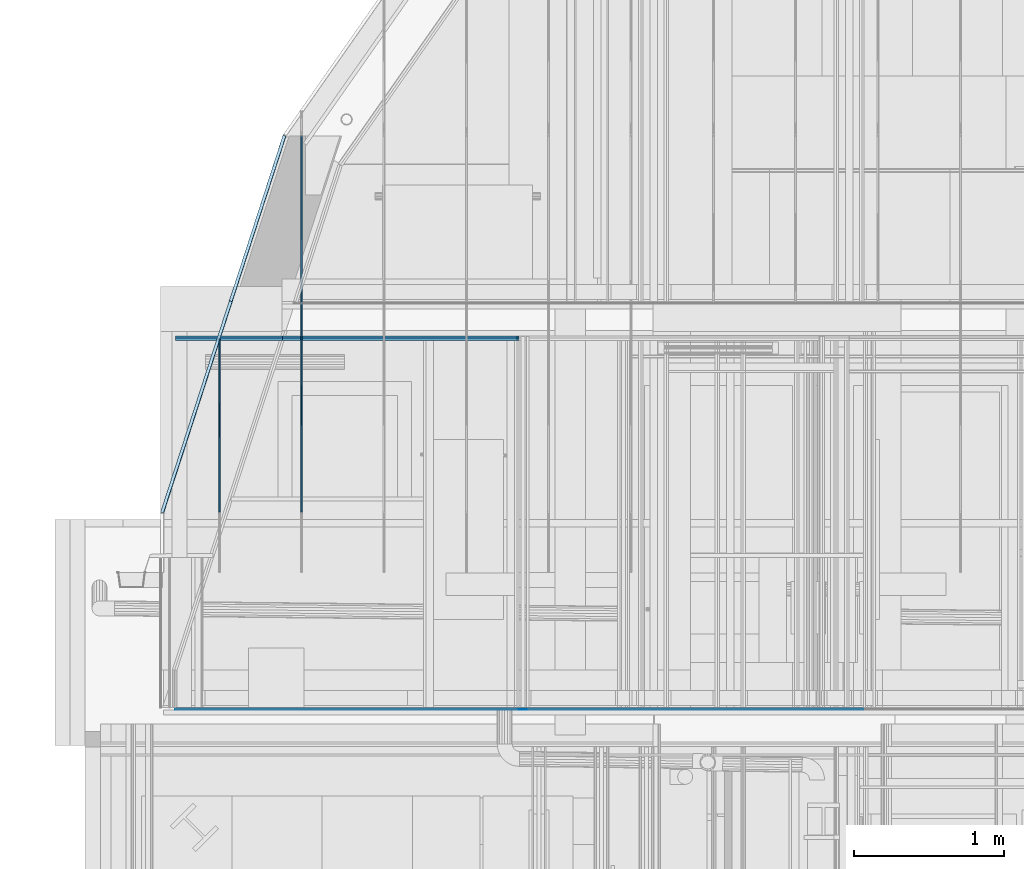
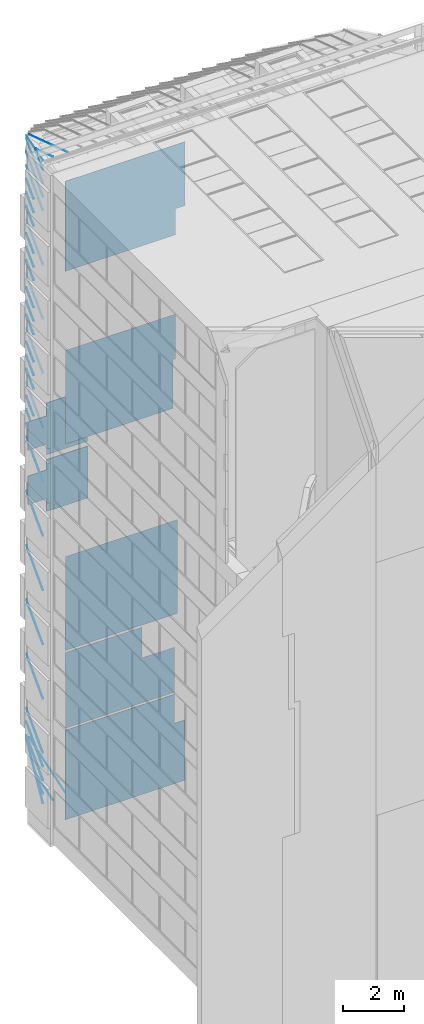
# One storey, part 262 of 583: 49 slabs.
"""IFC2X3 building model written with IfcOpenShell, lengths in metres."""

import ifcopenshell
import ifcopenshell.guid

model = None  # the IFC model being written
_history = None  # IfcOwnerHistory: only IFC2X3 demands one
_inside = {}  # id of a spatial element -> (the spatial element, [elements in it])
_under = {}  # id of a project, library or spatial element -> (it, [spatial elements below it])
_declared = {}  # id of a project -> (the project, [libraries it declares])
_typed = {}  # id of a type object -> (the type object, [elements of that type])
_made_of = {}  # id of a material, layer set ... -> (it, [elements and type objects made of it])


def new_model(schema):
    """Start an empty IFC model of exactly this schema.

    Asked for "IFC4X3", IfcOpenShell would pick the latest addendum, in which some entities
    have other attributes; the version numbers below select the first issue.
    IFC2X3 requires an IfcOwnerHistory on every rooted entity: one is made here for all.
    """
    global model, _history
    if schema == "IFC4X3":
        model = ifcopenshell.file(schema_version=(4, 3, 0, 0))
    else:
        model = ifcopenshell.file(schema=schema)
    _inside.clear()
    _under.clear()
    _declared.clear()
    _typed.clear()
    _made_of.clear()
    _history = None
    if model.schema == "IFC2X3":
        org = make("IfcOrganization", Name="unknown")
        user = make(
            "IfcPersonAndOrganization",
            ThePerson=make("IfcPerson", FamilyName="unknown"),
            TheOrganization=org,
        )
        app = make(
            "IfcApplication",
            ApplicationDeveloper=org,
            Version="unknown",
            ApplicationFullName="unknown",
            ApplicationIdentifier="unknown",
        )
        _history = make(
            "IfcOwnerHistory",
            OwningUser=user,
            OwningApplication=app,
            ChangeAction="ADDED",
            CreationDate=0,
        )
    return model


def make(cls, **values):
    """One entity of the class cls with the attributes given. An attribute that is None is left unset."""
    return model.create_entity(
        cls, **{name: value for name, value in values.items() if value is not None}
    )


def entity(cls, *values):
    """Any entity or typed value of the class cls, its attributes in the order of the schema. None: left unset."""
    e = model.create_entity(cls)
    for i, value in enumerate(values):
        if value is not None:
            e[i] = value
    return e


def rooted(cls, **values):
    """An entity with a GlobalId (a new one), such as an element, a storey or a relation."""
    return make(cls, GlobalId=ifcopenshell.guid.new(), OwnerHistory=_history, **values)


def si_unit(unit_type, name, prefix=None):
    """IfcSIUnit, for example si_unit("LENGTHUNIT", "METRE", prefix="MILLI")."""
    return make("IfcSIUnit", UnitType=unit_type, Prefix=prefix, Name=name)


def converted_unit(unit_type, name, factor, base, dimensions=None, offset=None):
    """IfcConversionBasedUnit, such as the inch: factor (a typed value) times the base unit."""
    return make(
        "IfcConversionBasedUnit"
        if offset is None
        else "IfcConversionBasedUnitWithOffset",
        ConversionOffset=offset,
        Dimensions=None
        if dimensions is None
        else entity("IfcDimensionalExponents", *dimensions),
        UnitType=unit_type,
        Name=name,
        ConversionFactor=make(
            "IfcMeasureWithUnit", ValueComponent=factor, UnitComponent=base
        ),
    )


def derived_unit(unit_type, elements):
    """IfcDerivedUnit: a product of units, each with its exponent."""
    return make(
        "IfcDerivedUnit",
        Elements=[
            make("IfcDerivedUnitElement", Unit=unit, Exponent=power)
            for unit, power in elements
        ],
        UnitType=unit_type,
    )


def money_unit(currency):
    """IfcMonetaryUnit."""
    return make("IfcMonetaryUnit", Currency=currency)


def assignment(units):
    """IfcUnitAssignment: the units of a project."""
    return None if units is None else make("IfcUnitAssignment", Units=units)


def point(xyz):
    """IfcCartesianPoint."""
    return None if xyz is None else make("IfcCartesianPoint", Coordinates=xyz)


def direction(xyz):
    """IfcDirection."""
    return None if xyz is None else make("IfcDirection", DirectionRatios=xyz)


def frame(location, z_axis=None, x_axis=None):
    """IfcAxis2Placement3D, a coordinate frame: its origin and axes. An axis left out is left unset."""
    return make(
        "IfcAxis2Placement3D",
        Location=point(location),
        Axis=direction(z_axis),
        RefDirection=direction(x_axis),
    )


def origin_with_axes():
    """The frame at (0, 0, 0) with the z axis (0, 0, 1) and the x axis (1, 0, 0) written out."""
    return frame((0.0, 0.0, 0.0), z_axis=(0.0, 0.0, 1.0), x_axis=(1.0, 0.0, 0.0))


def place(relative_to, where):
    """IfcLocalPlacement: puts the frame where relative to a parent placement (None: the world)."""
    return make(
        "IfcLocalPlacement", PlacementRelTo=relative_to, RelativePlacement=where
    )


def context(
    kind, dimensions, precision=None, world=None, true_north=None, identifier=None
):
    """IfcGeometricRepresentationContext, for example the 3D "Model" context."""
    return make(
        "IfcGeometricRepresentationContext",
        ContextIdentifier=identifier,
        ContextType=kind,
        CoordinateSpaceDimension=dimensions,
        Precision=precision,
        WorldCoordinateSystem=world,
        TrueNorth=true_north,
    )


def subcontext(parent, identifier, kind, view, scale=None):
    """IfcGeometricRepresentationSubContext, for example "Body" below "Model"."""
    return make(
        "IfcGeometricRepresentationSubContext",
        ContextIdentifier=identifier,
        ContextType=kind,
        ParentContext=parent,
        TargetScale=scale,
        TargetView=view,
    )


def project(units=None, contexts=None):
    """IfcProject with its units and contexts."""
    return rooted(
        "IfcProject",
        Name="project",
        RepresentationContexts=contexts,
        UnitsInContext=assignment(units),
    )


def spatial(cls, under=None, at=None, **own):
    """A site, building, storey or space (cls), placed at a placement, below another one or the project."""
    s = rooted(cls, ObjectPlacement=at, **own)
    if under is not None:
        _under.setdefault(under.id(), (under, []))[1].append(s)
    return s


def faces_of(points, faces, orient=None, outer=None):
    """IfcFace entities. A face is a list of loops; a loop is a list of indices into points, from 0.

    orient and outer hold one flag for each loop. By default every Orientation is true, the
    first loop of a face is its IfcFaceOuterBound and the others are IfcFaceBound.
    """
    made = []
    for i, loops in enumerate(faces):
        bounds = []
        for j, loop in enumerate(loops):
            is_outer = j == 0 if outer is None else outer[i][j]
            bounds.append(
                make(
                    "IfcFaceOuterBound" if is_outer else "IfcFaceBound",
                    Bound=make("IfcPolyLoop", Polygon=[points[k] for k in loop]),
                    Orientation=True if orient is None else orient[i][j],
                )
            )
        made.append(make("IfcFace", Bounds=bounds))
    return made


def faceted_brep(points, faces, orient=None, outer=None, voids=None):
    """IfcFacetedBrep: a solid bounded by flat faces; with voids (closed shells), ...WithVoids."""
    shared = [point(p) for p in points]
    hull = make("IfcClosedShell", CfsFaces=faces_of(shared, faces, orient, outer))
    if voids is None:
        return make("IfcFacetedBrep", Outer=hull)
    return make(
        "IfcFacetedBrepWithVoids",
        Outer=hull,
        Voids=[
            make(cls, CfsFaces=faces_of(shared, fs, o, b)) for cls, fs, o, b in voids
        ],
    )


def shape(context_of_items, identifier, shape_type, items):
    """IfcShapeRepresentation: the items that make up one representation, for example the "Body"."""
    return make(
        "IfcShapeRepresentation",
        ContextOfItems=context_of_items,
        RepresentationIdentifier=identifier,
        RepresentationType=shape_type,
        Items=items,
    )


def material(Name=None, Category=None):
    """IfcMaterial."""
    return make("IfcMaterial", Name=Name, Category=Category)


def made_of(thing, what):
    """Note that an element or type object is made of a material, layer set ...; save() writes the relation."""
    if what is not None:
        _made_of.setdefault(what.id(), (what, []))[1].append(thing)
    return thing


def type_object(cls, material=None, **own):
    """A type object (cls), such as IfcWallType, which elements share."""
    return made_of(rooted(cls, **own), material)


def element(
    cls,
    number,
    at=None,
    inside=None,
    cuts=None,
    type_object=None,
    material=None,
    context=None,
    identifier="Body",
    shape_type=None,
    held_by="IfcProductDefinitionShape",
    body=None,
    shapes=None,
    **own,
):
    """One element of the class cls, such as IfcWall. Its Tag is "e" and its number.

    at: its placement. inside: the storey or other place that contains it. cuts: it is an
    opening in that element (IfcRelVoidsElement). A single representation is given by context,
    identifier, shape_type and body (its items); several are given by shapes. held_by: the class
    of the entity that holds the representations. save() writes the other relations.
    """
    e = rooted(cls, Tag="e%d" % number, ObjectPlacement=at, **own)
    if body is not None:
        shapes = [shape(context, identifier, shape_type, body)]
    if shapes is not None:
        e.Representation = make(held_by, Representations=shapes)
    if inside is not None:
        _inside.setdefault(inside.id(), (inside, []))[1].append(e)
    if cuts is not None:
        rooted(
            "IfcRelVoidsElement", RelatingBuildingElement=cuts, RelatedOpeningElement=e
        )
    if type_object is not None:
        _typed.setdefault(type_object.id(), (type_object, []))[1].append(e)
    return made_of(e, material)


def aggregate(whole, parts):
    """IfcRelAggregates: a whole, such as a stair, and the parts it consists of."""
    return rooted("IfcRelAggregates", RelatingObject=whole, RelatedObjects=parts)


def save(model, path):
    """Write the relations noted so far, then the file.

    IfcRelAggregates (storeys below a building ...), IfcRelContainedInSpatialStructure (elements
    in a storey), IfcRelDefinesByType, IfcRelAssociatesMaterial and IfcRelDeclares: one each for
    every whole, place, type object, material and project.
    """
    for whole, parts in _under.values():
        aggregate(whole, parts)
    for where, things in _inside.values():
        rooted(
            "IfcRelContainedInSpatialStructure",
            RelatedElements=things,
            RelatingStructure=where,
        )
    for kind, things in _typed.values():
        rooted("IfcRelDefinesByType", RelatedObjects=things, RelatingType=kind)
    for what, things in _made_of.values():
        rooted("IfcRelAssociatesMaterial", RelatedObjects=things, RelatingMaterial=what)
    for by, libraries in _declared.values():
        rooted("IfcRelDeclares", RelatingContext=by, RelatedDefinitions=libraries)
    model.write(path)


model = new_model("IFC2X3")

# Units and contexts
model_context = context("Model", 3, precision=1e-05, world=origin_with_axes(), true_north=direction((0.0, 1.0)))
body_context = subcontext(model_context, "Body", "Model", "MODEL_VIEW", scale=1.0)
ifc_project = project(units=[si_unit("LENGTHUNIT", "METRE"), si_unit("AREAUNIT", "SQUARE_METRE"), si_unit("VOLUMEUNIT", "CUBIC_METRE"), si_unit("ABSORBEDDOSEUNIT", "GRAY"), si_unit("AMOUNTOFSUBSTANCEUNIT", "MOLE"), si_unit("DOSEEQUIVALENTUNIT", "SIEVERT"), si_unit("ELECTRICCAPACITANCEUNIT", "FARAD"), si_unit("ELECTRICCHARGEUNIT", "COULOMB"), si_unit("ELECTRICCONDUCTANCEUNIT", "SIEMENS"), si_unit("ELECTRICCURRENTUNIT", "AMPERE"), si_unit("ELECTRICRESISTANCEUNIT", "OHM"), si_unit("ELECTRICVOLTAGEUNIT", "VOLT"), si_unit("ENERGYUNIT", "JOULE"), si_unit("FORCEUNIT", "NEWTON"), si_unit("FREQUENCYUNIT", "HERTZ"), si_unit("ILLUMINANCEUNIT", "LUX"), si_unit("INDUCTANCEUNIT", "HENRY"), si_unit("LUMINOUSFLUXUNIT", "LUMEN"), si_unit("LUMINOUSINTENSITYUNIT", "CANDELA"), si_unit("MAGNETICFLUXDENSITYUNIT", "TESLA"), si_unit("MAGNETICFLUXUNIT", "WEBER"), si_unit("MASSUNIT", "GRAM"), converted_unit("PLANEANGLEUNIT", "degree", entity("IfcReal", 0.0174532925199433), si_unit("PLANEANGLEUNIT", "RADIAN"), dimensions=[0, 0, 0, 0, 0, 0, 0]), si_unit("POWERUNIT", "WATT"), si_unit("PRESSUREUNIT", "PASCAL"), si_unit("RADIOACTIVITYUNIT", "BECQUEREL"), si_unit("SOLIDANGLEUNIT", "STERADIAN"), si_unit("THERMODYNAMICTEMPERATUREUNIT", "KELVIN"), si_unit("TIMEUNIT", "SECOND"), derived_unit("ACCELERATIONUNIT", [(si_unit("LENGTHUNIT", "METRE"), 1), (si_unit("TIMEUNIT", "SECOND"), -2)]), derived_unit("ANGULARVELOCITYUNIT", [(converted_unit("PLANEANGLEUNIT", "degree", entity("IfcReal", 0.0174532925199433), si_unit("PLANEANGLEUNIT", "RADIAN"), dimensions=[0, 0, 0, 0, 0, 0, 0]), 1), (si_unit("TIMEUNIT", "SECOND"), -1)]), derived_unit("CURVATUREUNIT", [(converted_unit("PLANEANGLEUNIT", "degree", entity("IfcReal", 0.0174532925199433), si_unit("PLANEANGLEUNIT", "RADIAN"), dimensions=[0, 0, 0, 0, 0, 0, 0]), 1), (si_unit("LENGTHUNIT", "METRE"), -1)]), derived_unit("DYNAMICVISCOSITYUNIT", [(si_unit("PRESSUREUNIT", "PASCAL"), 1), (si_unit("TIMEUNIT", "SECOND"), 1)]), derived_unit("HEATFLUXDENSITYUNIT", [(si_unit("POWERUNIT", "WATT"), 1), (si_unit("LENGTHUNIT", "METRE"), -2)]), derived_unit("HEATINGVALUEUNIT", [(si_unit("ENERGYUNIT", "JOULE"), 1), (si_unit("MASSUNIT", "GRAM"), -1)]), derived_unit("INTEGERCOUNTRATEUNIT", [(si_unit("TIMEUNIT", "SECOND"), -1)]), derived_unit("IONCONCENTRATIONUNIT", [(si_unit("MASSUNIT", "GRAM"), 1), (si_unit("VOLUMEUNIT", "CUBIC_METRE"), -1)]), derived_unit("ISOTHERMALMOISTURECAPACITYUNIT", [(si_unit("VOLUMEUNIT", "CUBIC_METRE"), 1), (si_unit("MASSUNIT", "GRAM"), -1)]), derived_unit("KINEMATICVISCOSITYUNIT", [(si_unit("AREAUNIT", "SQUARE_METRE"), 1), (si_unit("TIMEUNIT", "SECOND"), -1)]), derived_unit("LINEARFORCEUNIT", [(si_unit("FORCEUNIT", "NEWTON"), 1), (si_unit("LENGTHUNIT", "METRE"), -1)]), derived_unit("LINEARMOMENTUNIT", [(si_unit("FORCEUNIT", "NEWTON"), 1), (si_unit("LENGTHUNIT", "METRE"), -1)]), derived_unit("LINEARSTIFFNESSUNIT", [(si_unit("FORCEUNIT", "NEWTON"), 1), (si_unit("LENGTHUNIT", "METRE"), -1)]), derived_unit("LINEARVELOCITYUNIT", [(si_unit("LENGTHUNIT", "METRE"), 1), (si_unit("TIMEUNIT", "SECOND"), -1)]), derived_unit("LUMINOUSINTENSITYDISTRIBUTIONUNIT", [(si_unit("LUMINOUSINTENSITYUNIT", "CANDELA"), 1), (si_unit("LUMINOUSFLUXUNIT", "LUMEN"), -1)]), derived_unit("MASSDENSITYUNIT", [(si_unit("MASSUNIT", "GRAM"), 1), (si_unit("VOLUMEUNIT", "CUBIC_METRE"), -1)]), derived_unit("MASSFLOWRATEUNIT", [(si_unit("MASSUNIT", "GRAM"), 1), (si_unit("TIMEUNIT", "SECOND"), -1)]), derived_unit("MASSPERLENGTHUNIT", [(si_unit("MASSUNIT", "GRAM"), 1), (si_unit("LENGTHUNIT", "METRE"), -1)]), derived_unit("MODULUSOFELASTICITYUNIT", [(si_unit("FORCEUNIT", "NEWTON"), 1), (si_unit("AREAUNIT", "SQUARE_METRE"), -1)]), derived_unit("MODULUSOFLINEARSUBGRADEREACTIONUNIT", [(si_unit("FORCEUNIT", "NEWTON"), 1), (si_unit("LENGTHUNIT", "METRE"), -2)]), derived_unit("MODULUSOFROTATIONALSUBGRADEREACTIONUNIT", [(si_unit("FORCEUNIT", "NEWTON"), 1), (si_unit("LENGTHUNIT", "METRE"), 1)]), derived_unit("MODULUSOFSUBGRADEREACTIONUNIT", [(si_unit("FORCEUNIT", "NEWTON"), 1), (si_unit("VOLUMEUNIT", "CUBIC_METRE"), -1)]), derived_unit("MOISTUREDIFFUSIVITYUNIT", [(si_unit("VOLUMEUNIT", "CUBIC_METRE"), 1), (si_unit("TIMEUNIT", "SECOND"), -1)]), derived_unit("MOLECULARWEIGHTUNIT", [(si_unit("MASSUNIT", "GRAM"), 1), (si_unit("AMOUNTOFSUBSTANCEUNIT", "MOLE"), -1)]), derived_unit("PLANARFORCEUNIT", [(si_unit("FORCEUNIT", "NEWTON"), 1), (si_unit("LENGTHUNIT", "METRE"), -2)]), derived_unit("ROTATIONALFREQUENCYUNIT", [(si_unit("TIMEUNIT", "SECOND"), -1)]), derived_unit("ROTATIONALMASSUNIT", [(si_unit("MASSUNIT", "GRAM"), 1), (si_unit("LENGTHUNIT", "METRE"), 2)]), derived_unit("ROTATIONALSTIFFNESSUNIT", [(si_unit("FORCEUNIT", "NEWTON"), 1), (si_unit("LENGTHUNIT", "METRE"), 1), (converted_unit("PLANEANGLEUNIT", "degree", entity("IfcReal", 0.0174532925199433), si_unit("PLANEANGLEUNIT", "RADIAN"), dimensions=[0, 0, 0, 0, 0, 0, 0]), -1)]), derived_unit("SECTIONAREAINTEGRALUNIT", [(si_unit("LENGTHUNIT", "METRE"), 5)]), derived_unit("SECTIONMODULUSUNIT", [(si_unit("LENGTHUNIT", "METRE"), 3)]), derived_unit("SHEARMODULUSUNIT", [(si_unit("FORCEUNIT", "NEWTON"), 1), (si_unit("AREAUNIT", "SQUARE_METRE"), -1)]), derived_unit("SOUNDPOWERUNIT", [(si_unit("ENERGYUNIT", "JOULE"), 1), (si_unit("TIMEUNIT", "SECOND"), -1)]), derived_unit("SPECIFICHEATCAPACITYUNIT", [(si_unit("FORCEUNIT", "NEWTON"), 1), (si_unit("MASSUNIT", "GRAM"), -1), (si_unit("THERMODYNAMICTEMPERATUREUNIT", "KELVIN"), -1)]), derived_unit("TEMPERATUREGRADIENTUNIT", [(si_unit("THERMODYNAMICTEMPERATUREUNIT", "KELVIN"), 1), (si_unit("LENGTHUNIT", "METRE"), -1)]), derived_unit("THERMALADMITTANCEUNIT", [(si_unit("POWERUNIT", "WATT"), 1), (si_unit("AREAUNIT", "SQUARE_METRE"), -1), (si_unit("THERMODYNAMICTEMPERATUREUNIT", "KELVIN"), -1)]), derived_unit("THERMALCONDUCTANCEUNIT", [(si_unit("POWERUNIT", "WATT"), 1), (si_unit("LENGTHUNIT", "METRE"), -1), (si_unit("THERMODYNAMICTEMPERATUREUNIT", "KELVIN"), -1)]), derived_unit("THERMALEXPANSIONCOEFFICIENTUNIT", [(si_unit("THERMODYNAMICTEMPERATUREUNIT", "KELVIN"), -1)]), derived_unit("THERMALRESISTANCEUNIT", [(si_unit("AREAUNIT", "SQUARE_METRE"), 1), (si_unit("POWERUNIT", "WATT"), -1)]), derived_unit("THERMALTRANSMITTANCEUNIT", [(si_unit("POWERUNIT", "WATT"), 1), (si_unit("AREAUNIT", "SQUARE_METRE"), -1), (si_unit("THERMODYNAMICTEMPERATUREUNIT", "KELVIN"), -1)]), derived_unit("TORQUEUNIT", [(si_unit("FORCEUNIT", "NEWTON"), 1), (si_unit("LENGTHUNIT", "METRE"), 1)]), derived_unit("VAPORPERMEABILITYUNIT", [(si_unit("MASSUNIT", "GRAM"), 1), (si_unit("TIMEUNIT", "SECOND"), -1)]), derived_unit("VOLUMETRICFLOWRATEUNIT", [(si_unit("VOLUMEUNIT", "CUBIC_METRE"), 1), (si_unit("TIMEUNIT", "SECOND"), -1)]), derived_unit("WARPINGCONSTANTUNIT", [(si_unit("LENGTHUNIT", "METRE"), 6)]), derived_unit("WARPINGMOMENTUNIT", [(si_unit("FORCEUNIT", "NEWTON"), 1), (si_unit("LENGTHUNIT", "METRE"), 2)]), money_unit("GBP")], contexts=[model_context])

# Site, building, storey
site_placement = place(None, origin_with_axes())
site = spatial("IfcSite", under=ifc_project, at=site_placement, Name="Site", CompositionType="ELEMENT")
building_placement = place(site_placement, origin_with_axes())
building = spatial("IfcBuilding", under=site, at=building_placement, Name="Building01", CompositionType="ELEMENT")
storey_placement = place(building_placement, frame((0.0, 0.0, 20.78), z_axis=(0.0, 0.0, 1.0), x_axis=(1.0, 0.0, 0.0)))
storey = spatial("IfcBuildingStorey", under=building, at=storey_placement, Name="RL", CompositionType="ELEMENT", Elevation=20.78)

# Slabs
ifc_material_1 = material(Name="A_BSUK_CeilingSoffitFinishes_Suspended")
slab_type_1 = type_object("IfcSlabType", Name="A-FloorsSlabs A_BSUK_Slabs", PredefinedType="FLOOR")
placement = place(storey_placement, frame((0.0, 0.0, -20.78), z_axis=(0.0, 0.0, 1.0), x_axis=(1.0, 0.0, 0.0)))
element("IfcSlab", 1, at=placement, inside=storey, type_object=slab_type_1, material=ifc_material_1, Name="A-FloorsSlabs A_BSUK_Slabs", ObjectType="CompoundSlabLeaf", context=body_context, shape_type="Brep", body=[
    faceted_brep([(1.312402, 17.423, 11.31), (1.312402, 17.438, 11.31), (2.884761, 17.438, 11.31), (2.884761, 17.423, 11.31), (1.312402, 17.423, 11.830024), (1.312402, 17.438, 11.830024), (0.599939, 17.423, 11.830024), (0.599939, 17.438, 11.830024), (0.599939, 17.423, 12.979976), (0.599939, 17.438, 12.979976), (1.312402, 17.423, 12.992194), (1.312402, 17.438, 12.992194), (1.312402, 17.423, 13.4), (1.312402, 17.438, 13.4), (2.884761, 17.423, 13.4), (2.884761, 17.438, 13.4)], [[[0, 1, 2, 3]], [[4, 5, 1, 0]], [[6, 7, 5, 4]], [[8, 9, 7, 6]], [[10, 11, 9, 8]], [[12, 13, 11, 10]], [[14, 15, 13, 12]], [[3, 2, 15, 14]], [[1, 5, 7, 9, 11, 13, 15, 2]], [[3, 14, 12, 10, 8, 6, 4, 0]]]),
])
element("IfcSlab", 2, at=placement, inside=storey, type_object=slab_type_1, material=ifc_material_1, Name="A-FloorsSlabs A_BSUK_Slabs", ObjectType="CompoundSlabLeaf", context=body_context, shape_type="Brep", body=[
    faceted_brep([(1.313291, 17.423, 13.6), (1.313291, 17.438, 13.6), (2.869761, 17.438, 13.6), (2.869761, 17.423, 13.6), (1.313291, 17.423, 14.020024), (1.313291, 17.438, 14.020024), (0.599939, 17.423, 14.020024), (0.599939, 17.438, 14.020024), (0.599939, 17.423, 15.170024), (0.599939, 17.438, 15.170024), (1.312402, 17.423, 15.170024), (1.312402, 17.438, 15.170024), (1.312402, 17.423, 15.69), (1.312402, 17.438, 15.69), (2.869761, 17.423, 15.69), (2.869761, 17.438, 15.69)], [[[0, 1, 2, 3]], [[4, 5, 1, 0]], [[6, 7, 5, 4]], [[8, 9, 7, 6]], [[10, 11, 9, 8]], [[12, 13, 11, 10]], [[14, 15, 13, 12]], [[3, 2, 15, 14]], [[1, 5, 7, 9, 11, 13, 15, 2]], [[3, 14, 12, 10, 8, 6, 4, 0]]]),
])
ifc_material_2 = material(Name="A_BSUK_ExpandedPolystyreneBoards")
element("IfcSlab", 3, at=placement, inside=storey, type_object=slab_type_1, material=ifc_material_2, Name="A-FloorsSlabs A_BSUK_Slabs", ObjectType="CompoundSlabLeaf", context=body_context, shape_type="Brep", body=[
    faceted_brep([(5.174915, 14.965, 23.79), (5.174915, 14.968, 23.79), (5.174915, 14.968, 26.3762), (5.174915, 14.965, 26.3762), (4.817, 14.965, 23.79), (4.817, 14.968, 23.79), (4.817, 14.965, 22.740024), (4.817, 14.968, 22.740024), (0.6038, 14.965, 22.740024), (0.6038, 14.968, 22.740024), (0.6038, 14.965, 23.930024), (0.6038, 14.968, 23.930024), (0.6038, 14.965, 26.3762), (0.6038, 14.968, 26.3762), (4.024964, 14.965, 26.3762), (4.024964, 14.968, 26.3762)], [[[0, 1, 2, 3]], [[4, 5, 1, 0]], [[6, 7, 5, 4]], [[8, 9, 7, 6]], [[10, 11, 9, 8]], [[12, 13, 11, 10]], [[14, 15, 13, 12]], [[3, 2, 15, 14]], [[1, 5, 7, 9, 11, 13, 15, 2]], [[3, 14, 12, 10, 8, 6, 4, 0]]]),
])
element("IfcSlab", 4, at=placement, inside=storey, type_object=slab_type_1, material=ifc_material_2, Name="A-FloorsSlabs A_BSUK_Slabs", ObjectType="CompoundSlabLeaf", context=body_context, shape_type="Brep", body=[
    faceted_brep([(4.817, 14.965, 19.549976), (4.817, 14.968, 19.549976), (0.6038, 14.968, 19.549976), (0.6038, 14.965, 19.549976), (4.817, 14.965, 17.73844), (4.817, 14.968, 17.73844), (4.717, 14.965, 17.73844), (4.717, 14.968, 17.73844), (4.717, 14.965, 15.77), (4.717, 14.968, 15.77), (0.6038, 14.965, 15.77), (0.6038, 14.968, 15.77), (0.6038, 14.965, 16.210024), (0.6038, 14.968, 16.210024), (0.6038, 14.965, 17.359976), (0.6038, 14.968, 17.359976), (0.6038, 14.965, 18.400024), (0.6038, 14.968, 18.400024)], [[[0, 1, 2, 3]], [[4, 5, 1, 0]], [[6, 7, 5, 4]], [[8, 9, 7, 6]], [[10, 11, 9, 8]], [[12, 13, 11, 10]], [[14, 15, 13, 12]], [[16, 17, 15, 14]], [[3, 2, 17, 16]], [[1, 5, 7, 9, 11, 13, 15, 17, 2]], [[3, 16, 14, 12, 10, 8, 6, 4, 0]]]),
])
element("IfcSlab", 5, at=placement, inside=storey, type_object=slab_type_1, material=ifc_material_2, Name="A-FloorsSlabs A_BSUK_Slabs", ObjectType="CompoundSlabLeaf", context=body_context, shape_type="Brep", body=[
    faceted_brep([(4.88, 14.965, 7.44), (4.88, 14.968, 7.44), (4.88, 14.968, 11.23), (4.88, 14.965, 11.23), (0.599916, 14.965, 7.439911), (0.599916, 14.968, 7.439911), (0.6038, 14.965, 8.599976), (0.6038, 14.968, 8.599976), (0.6038, 14.965, 9.640024), (0.6038, 14.968, 9.640024), (0.6038, 14.965, 10.790024), (0.6038, 14.968, 10.790024), (0.6038, 14.965, 11.23), (0.6038, 14.968, 11.23)], [[[0, 1, 2, 3]], [[4, 5, 1, 0]], [[6, 7, 5, 4]], [[8, 9, 7, 6]], [[10, 11, 9, 8]], [[12, 13, 11, 10]], [[3, 2, 13, 12]], [[1, 5, 7, 9, 11, 13, 2]], [[3, 12, 10, 8, 6, 4, 0]]]),
])
element("IfcSlab", 6, at=placement, inside=storey, type_object=slab_type_1, material=ifc_material_2, Name="A-FloorsSlabs A_BSUK_Slabs", ObjectType="CompoundSlabLeaf", context=body_context, shape_type="Brep", body=[
    faceted_brep([(3.539939, 14.965, 7.36), (3.539939, 14.968, 7.36), (0.599916, 14.968, 7.36), (0.599916, 14.965, 7.36), (3.539939, 14.965, 6.120098), (3.539939, 14.968, 6.120098), (4.779939, 14.965, 6.120098), (4.779939, 14.968, 6.120098), (4.779939, 14.965, 4.299976), (4.779939, 14.968, 4.299976), (0.6038, 14.965, 4.299976), (0.6038, 14.968, 4.299976), (0.6038, 14.965, 5.260024), (0.6038, 14.968, 5.260024), (0.6038, 14.965, 6.409976), (0.6038, 14.968, 6.409976), (0.599916, 14.965, 6.409976), (0.599916, 14.968, 6.409976)], [[[0, 1, 2, 3]], [[4, 5, 1, 0]], [[6, 7, 5, 4]], [[8, 9, 7, 6]], [[10, 11, 9, 8]], [[12, 13, 11, 10]], [[14, 15, 13, 12]], [[16, 17, 15, 14]], [[3, 2, 17, 16]], [[1, 5, 7, 9, 11, 13, 15, 17, 2]], [[3, 16, 14, 12, 10, 8, 6, 4, 0]]]),
])
element("IfcSlab", 7, at=placement, inside=storey, type_object=slab_type_1, material=ifc_material_2, Name="A-FloorsSlabs A_BSUK_Slabs", ObjectType="CompoundSlabLeaf", context=body_context, shape_type="Brep", body=[
    faceted_brep([(4.779939, 14.965, 4.219976), (4.779939, 14.968, 4.219976), (0.6038, 14.968, 4.219976), (0.6038, 14.965, 4.219976), (4.779939, 14.965, 3.039976), (4.779939, 14.968, 3.039976), (5.174915, 14.965, 3.039976), (5.174915, 14.968, 3.039976), (5.174915, 14.965, 0.6038), (5.174915, 14.968, 0.6038), (4.024964, 14.965, 0.6038), (4.024964, 14.968, 0.6038), (0.6038, 14.965, 0.6038), (0.6038, 14.968, 0.6038), (0.6038, 14.965, 3.070024), (0.6038, 14.968, 3.070024)], [[[0, 1, 2, 3]], [[4, 5, 1, 0]], [[6, 7, 5, 4]], [[8, 9, 7, 6]], [[10, 11, 9, 8]], [[12, 13, 11, 10]], [[14, 15, 13, 12]], [[3, 2, 15, 14]], [[1, 5, 7, 9, 11, 13, 15, 2]], [[3, 14, 12, 10, 8, 6, 4, 0]]]),
])
element("IfcSlab", 8, at=placement, inside=storey, type_object=slab_type_1, material=ifc_material_1, Name="A-FloorsSlabs A_BSUK_Slabs", ObjectType="CompoundSlabLeaf", context=body_context, shape_type="Brep", body=[
    faceted_brep([(1.312402, 17.438, 11.31), (1.312402, 17.453, 11.31), (2.884761, 17.453, 11.31), (2.884761, 17.438, 11.31), (1.312402, 17.438, 11.830024), (1.312402, 17.453, 11.830024), (0.599939, 17.438, 11.830024), (0.599939, 17.453, 11.830024), (0.599939, 17.438, 12.979976), (0.599939, 17.453, 12.979976), (1.312402, 17.438, 12.992194), (1.312402, 17.453, 12.992194), (1.312402, 17.438, 13.4), (1.312402, 17.453, 13.4), (2.884761, 17.438, 13.4), (2.884761, 17.453, 13.4)], [[[0, 1, 2, 3]], [[4, 5, 1, 0]], [[6, 7, 5, 4]], [[8, 9, 7, 6]], [[10, 11, 9, 8]], [[12, 13, 11, 10]], [[14, 15, 13, 12]], [[3, 2, 15, 14]], [[1, 5, 7, 9, 11, 13, 15, 2]], [[3, 14, 12, 10, 8, 6, 4, 0]]]),
])
element("IfcSlab", 9, at=placement, inside=storey, type_object=slab_type_1, material=ifc_material_1, Name="A-FloorsSlabs A_BSUK_Slabs", ObjectType="CompoundSlabLeaf", context=body_context, shape_type="Brep", body=[
    faceted_brep([(1.313291, 17.438, 13.6), (1.313291, 17.453, 13.6), (2.869761, 17.453, 13.6), (2.869761, 17.438, 13.6), (1.313291, 17.438, 14.020024), (1.313291, 17.453, 14.020024), (0.599939, 17.438, 14.020024), (0.599939, 17.453, 14.020024), (0.599939, 17.438, 15.170024), (0.599939, 17.453, 15.170024), (1.312402, 17.438, 15.170024), (1.312402, 17.453, 15.170024), (1.312402, 17.438, 15.69), (1.312402, 17.453, 15.69), (2.869761, 17.438, 15.69), (2.869761, 17.453, 15.69)], [[[0, 1, 2, 3]], [[4, 5, 1, 0]], [[6, 7, 5, 4]], [[8, 9, 7, 6]], [[10, 11, 9, 8]], [[12, 13, 11, 10]], [[14, 15, 13, 12]], [[3, 2, 15, 14]], [[1, 5, 7, 9, 11, 13, 15, 2]], [[3, 14, 12, 10, 8, 6, 4, 0]]]),
])
ifc_material_3 = material(Name="A_BSUK_Roofs")
slab_10_placement = place(storey_placement, frame((0.52, 16.274427, -7.284976), z_axis=(0.0, 1.0, 0.0), x_axis=(0.0, 0.0, 1.0)))
element("IfcSlab", 10, at=slab_10_placement, inside=storey, type_object=slab_type_1, material=ifc_material_3, Name="A-FloorsSlabs A_BSUK_Slabs", ObjectType="A-FloorsSlabs A_BSUK_Slabs", context=body_context, shape_type="Brep", body=[
    faceted_brep([(0.0, 0.0, 0.0), (0.0, -0.019021, 0.00618), (0.0, 0.795239, 2.512214), (0.0, 0.81426, 2.506034), (0.01, 0.0, 0.0), (0.01, -0.019021, 0.00618), (0.01, 0.81426, 2.506034), (0.01, 0.795239, 2.512214)], [[[0, 1, 2, 3]], [[4, 5, 1, 0]], [[6, 7, 5, 4]], [[3, 2, 7, 6]], [[1, 5, 7, 2]], [[3, 6, 4, 0]]]),
])
for number, where, z_axis, x_axis, name in (
    (11, (0.52, 16.274427, -6.737476), (0.0, 1.0, 0.0), (0.0, 0.0, 1.0), "A-FloorsSlabs A_BSUK_Slabs"),
    (12, (0.52, 16.274427, -6.189976), (0.0, 1.0, 0.0), (0.0, 0.0, 1.0), "A-FloorsSlabs A_BSUK_Slabs"),
    (13, (0.52, 16.274427, -5.642476), (0.0, 1.0, 0.0), (0.0, 0.0, 1.0), "A-FloorsSlabs A_BSUK_Slabs"),
):
    element("IfcSlab", number, at=place(storey_placement, frame(where, z_axis=z_axis, x_axis=x_axis)), inside=storey, type_object=slab_type_1, material=ifc_material_3, Name=name, ObjectType="A-FloorsSlabs A_BSUK_Slabs", context=body_context, shape_type="Brep", body=[
        faceted_brep([(0.0, 0.456727, 1.405662), (0.0, 0.437706, 1.411842), (0.0, 0.795239, 2.512214), (0.0, 0.81426, 2.506034), (0.01, 0.456727, 1.405662), (0.01, 0.437706, 1.411842), (0.01, 0.81426, 2.506034), (0.01, 0.795239, 2.512214)], [[[0, 1, 2, 3]], [[4, 5, 1, 0]], [[6, 7, 5, 4]], [[3, 2, 7, 6]], [[1, 5, 7, 2]], [[3, 6, 4, 0]]]),
    ])
for number, where, z_axis, x_axis, name in (
    (14, (0.52, 16.274427, -5.094976), (0.0, 1.0, 0.0), (0.0, 0.0, 1.0), "A-FloorsSlabs A_BSUK_Slabs"),
    (15, (0.52, 16.274427, -2.904976), (0.0, 1.0, 0.0), (0.0, 0.0, 1.0), "A-FloorsSlabs A_BSUK_Slabs"),
):
    element("IfcSlab", number, at=place(storey_placement, frame(where, z_axis=z_axis, x_axis=x_axis)), inside=storey, type_object=slab_type_1, material=ifc_material_3, Name=name, ObjectType="A-FloorsSlabs A_BSUK_Slabs", context=body_context, shape_type="Brep", body=[
        faceted_brep([(0.0, 0.0, 0.0), (0.0, -0.019021, 0.00618), (0.0, 0.795239, 2.512214), (0.0, 0.81426, 2.506034), (0.01, 0.0, 0.0), (0.01, -0.019021, 0.00618), (0.01, 0.81426, 2.506034), (0.01, 0.795239, 2.512214)], [[[0, 1, 2, 3]], [[4, 5, 1, 0]], [[6, 7, 5, 4]], [[3, 2, 7, 6]], [[1, 5, 7, 2]], [[3, 6, 4, 0]]]),
    ])
for number, where, z_axis, x_axis, name in (
    (16, (0.52, 16.274427, -3.452476), (0.0, 1.0, 0.0), (0.0, 0.0, 1.0), "A-FloorsSlabs A_BSUK_Slabs"),
    (17, (0.52, 16.274427, -3.999976), (0.0, 1.0, 0.0), (0.0, 0.0, 1.0), "A-FloorsSlabs A_BSUK_Slabs"),
    (18, (0.52, 16.274427, -4.547476), (0.0, 1.0, 0.0), (0.0, 0.0, 1.0), "A-FloorsSlabs A_BSUK_Slabs"),
):
    element("IfcSlab", number, at=place(storey_placement, frame(where, z_axis=z_axis, x_axis=x_axis)), inside=storey, type_object=slab_type_1, material=ifc_material_3, Name=name, ObjectType="A-FloorsSlabs A_BSUK_Slabs", context=body_context, shape_type="Brep", body=[
        faceted_brep([(0.0, 0.456727, 1.405662), (0.0, 0.437706, 1.411842), (0.0, 0.795239, 2.512214), (0.0, 0.81426, 2.506034), (0.01, 0.456727, 1.405662), (0.01, 0.437706, 1.411842), (0.01, 0.81426, 2.506034), (0.01, 0.795239, 2.512214)], [[[0, 1, 2, 3]], [[4, 5, 1, 0]], [[6, 7, 5, 4]], [[3, 2, 7, 6]], [[1, 5, 7, 2]], [[3, 6, 4, 0]]]),
    ])
slab_11_placement = place(storey_placement, frame((0.52, 16.274427, -0.714976), z_axis=(0.0, 1.0, 0.0), x_axis=(0.0, 0.0, 1.0)))
element("IfcSlab", 19, at=slab_11_placement, inside=storey, type_object=slab_type_1, material=ifc_material_3, Name="A-FloorsSlabs A_BSUK_Slabs", ObjectType="A-FloorsSlabs A_BSUK_Slabs", context=body_context, shape_type="Brep", body=[
    faceted_brep([(0.0, 0.0, 0.0), (0.0, -0.019021, 0.00618), (0.0, 0.795239, 2.512214), (0.0, 0.81426, 2.506034), (0.01, 0.0, 0.0), (0.01, -0.019021, 0.00618), (0.01, 0.81426, 2.506034), (0.01, 0.795239, 2.512214)], [[[0, 1, 2, 3]], [[4, 5, 1, 0]], [[6, 7, 5, 4]], [[3, 2, 7, 6]], [[1, 5, 7, 2]], [[3, 6, 4, 0]]]),
])
for number, where, z_axis, x_axis, name in (
    (20, (0.52, 16.274427, -1.262476), (0.0, 1.0, 0.0), (0.0, 0.0, 1.0), "A-FloorsSlabs A_BSUK_Slabs"),
    (21, (0.52, 16.274427, -1.809976), (0.0, 1.0, 0.0), (0.0, 0.0, 1.0), "A-FloorsSlabs A_BSUK_Slabs"),
    (22, (0.52, 16.274427, -2.357476), (0.0, 1.0, 0.0), (0.0, 0.0, 1.0), "A-FloorsSlabs A_BSUK_Slabs"),
    (23, (0.52, 16.274427, 0.927524), (0.0, 1.0, 0.0), (0.0, 0.0, 1.0), "A-FloorsSlabs A_BSUK_Slabs"),
    (24, (0.52, 16.274427, 0.380024), (0.0, 1.0, 0.0), (0.0, 0.0, 1.0), "A-FloorsSlabs A_BSUK_Slabs"),
    (25, (0.52, 16.274427, -0.167476), (0.0, 1.0, 0.0), (0.0, 0.0, 1.0), "A-FloorsSlabs A_BSUK_Slabs"),
):
    element("IfcSlab", number, at=place(storey_placement, frame(where, z_axis=z_axis, x_axis=x_axis)), inside=storey, type_object=slab_type_1, material=ifc_material_3, Name=name, ObjectType="A-FloorsSlabs A_BSUK_Slabs", context=body_context, shape_type="Brep", body=[
        faceted_brep([(0.0, 0.456727, 1.405662), (0.0, 0.437706, 1.411842), (0.0, 0.795239, 2.512214), (0.0, 0.81426, 2.506034), (0.01, 0.456727, 1.405662), (0.01, 0.437706, 1.411842), (0.01, 0.81426, 2.506034), (0.01, 0.795239, 2.512214)], [[[0, 1, 2, 3]], [[4, 5, 1, 0]], [[6, 7, 5, 4]], [[3, 2, 7, 6]], [[1, 5, 7, 2]], [[3, 6, 4, 0]]]),
    ])
slab_12_placement = place(storey_placement, frame((0.52, 16.274427, 1.475024), z_axis=(0.0, 1.0, 0.0), x_axis=(0.0, 0.0, 1.0)))
element("IfcSlab", 26, at=slab_12_placement, inside=storey, type_object=slab_type_1, material=ifc_material_3, Name="A-FloorsSlabs A_BSUK_Slabs", ObjectType="A-FloorsSlabs A_BSUK_Slabs", context=body_context, shape_type="Brep", body=[
    faceted_brep([(0.0, 0.0, 0.0), (0.0, -0.019021, 0.00618), (0.0, 0.795239, 2.512214), (0.0, 0.81426, 2.506034), (0.01, 0.0, 0.0), (0.01, -0.019021, 0.00618), (0.01, 0.81426, 2.506034), (0.01, 0.795239, 2.512214)], [[[0, 1, 2, 3]], [[4, 5, 1, 0]], [[6, 7, 5, 4]], [[3, 2, 7, 6]], [[1, 5, 7, 2]], [[3, 6, 4, 0]]]),
])
for number, where, z_axis, x_axis, name in (
    (27, (0.52, 16.274427, 2.022524), (0.0, 1.0, 0.0), (0.0, 0.0, 1.0), "A-FloorsSlabs A_BSUK_Slabs"),
    (28, (0.52, 16.274427, 2.570024), (0.0, 1.0, 0.0), (0.0, 0.0, 1.0), "A-FloorsSlabs A_BSUK_Slabs"),
    (29, (0.52, 16.274427, 3.117524), (0.0, 1.0, 0.0), (0.0, 0.0, 1.0), "A-FloorsSlabs A_BSUK_Slabs"),
):
    element("IfcSlab", number, at=place(storey_placement, frame(where, z_axis=z_axis, x_axis=x_axis)), inside=storey, type_object=slab_type_1, material=ifc_material_3, Name=name, ObjectType="A-FloorsSlabs A_BSUK_Slabs", context=body_context, shape_type="Brep", body=[
        faceted_brep([(0.0, 0.456727, 1.405662), (0.0, 0.437706, 1.411842), (0.0, 0.795239, 2.512214), (0.0, 0.81426, 2.506034), (0.01, 0.456727, 1.405662), (0.01, 0.437706, 1.411842), (0.01, 0.81426, 2.506034), (0.01, 0.795239, 2.512214)], [[[0, 1, 2, 3]], [[4, 5, 1, 0]], [[6, 7, 5, 4]], [[3, 2, 7, 6]], [[1, 5, 7, 2]], [[3, 6, 4, 0]]]),
    ])
for number, where, z_axis, x_axis, name in (
    (30, (0.52, 16.274427, 3.665024), (0.0, 1.0, 0.0), (0.0, 0.0, 1.0), "A-FloorsSlabs A_BSUK_Slabs"),
    (31, (0.52, 16.274427, 4.212524), (0.0, 1.0, 0.0), (0.0, 0.0, 1.0), "A-FloorsSlabs A_BSUK_Slabs"),
    (32, (0.52, 16.274427, 4.760024), (0.0, 1.0, 0.0), (0.0, 0.0, 1.0), "A-FloorsSlabs A_BSUK_Slabs"),
):
    element("IfcSlab", number, at=place(storey_placement, frame(where, z_axis=z_axis, x_axis=x_axis)), inside=storey, type_object=slab_type_1, material=ifc_material_3, Name=name, ObjectType="A-FloorsSlabs A_BSUK_Slabs", context=body_context, shape_type="Brep", body=[
        faceted_brep([(0.0, 0.0, 0.0), (0.0, -0.019021, 0.00618), (0.0, 0.795239, 2.512214), (0.0, 0.81426, 2.506034), (0.01, 0.0, 0.0), (0.01, -0.019021, 0.00618), (0.01, 0.81426, 2.506034), (0.01, 0.795239, 2.512214)], [[[0, 1, 2, 3]], [[4, 5, 1, 0]], [[6, 7, 5, 4]], [[3, 2, 7, 6]], [[1, 5, 7, 2]], [[3, 6, 4, 0]]]),
    ])
slab_13_placement = place(storey_placement, frame((0.52, 16.274427, 5.307524), z_axis=(0.0, 1.0, 0.0), x_axis=(0.0, 0.0, 1.0)))
element("IfcSlab", 33, at=slab_13_placement, inside=storey, type_object=slab_type_1, material=ifc_material_3, Name="A-FloorsSlabs A_BSUK_Slabs", ObjectType="A-FloorsSlabs A_BSUK_Slabs", context=body_context, shape_type="Brep", body=[
    faceted_brep([(0.0, 0.0, 0.0), (0.0, -0.019021, 0.00618), (0.0, 0.354035, 1.154329), (0.0, 0.373056, 1.148148), (0.01, 0.0, 0.0), (0.01, -0.019021, 0.00618), (0.01, 0.373056, 1.148148), (0.01, 0.354035, 1.154329)], [[[0, 1, 2, 3]], [[4, 5, 1, 0]], [[6, 7, 5, 4]], [[3, 2, 7, 6]], [[1, 5, 7, 2]], [[3, 6, 4, 0]]]),
])
for number, where, z_axis, x_axis, name in (
    (34, (0.52, 16.274427, -9.464976), (0.0, 1.0, 0.0), (0.0, 0.0, 1.0), "A-FloorsSlabs A_BSUK_Slabs"),
    (35, (0.52, 16.274427, -11.654976), (0.0, 1.0, 0.0), (0.0, 0.0, 1.0), "A-FloorsSlabs A_BSUK_Slabs"),
    (36, (0.52, 16.274427, -13.844976), (0.0, 1.0, 0.0), (0.0, 0.0, 1.0), "A-FloorsSlabs A_BSUK_Slabs"),
    (37, (0.52, 16.274427, -16.034976), (0.0, 1.0, 0.0), (0.0, 0.0, 1.0), "A-FloorsSlabs A_BSUK_Slabs"),
    (38, (0.52, 16.274427, -18.224976), (0.0, 1.0, 0.0), (0.0, 0.0, 1.0), "A-FloorsSlabs A_BSUK_Slabs"),
    (39, (0.52, 16.274427, -18.772476), (0.0, 1.0, 0.0), (0.0, 0.0, 1.0), "A-FloorsSlabs A_BSUK_Slabs"),
    (40, (0.52, 16.274427, -19.319976), (0.0, 1.0, 0.0), (0.0, 0.0, 1.0), "A-FloorsSlabs A_BSUK_Slabs"),
):
    element("IfcSlab", number, at=place(storey_placement, frame(where, z_axis=z_axis, x_axis=x_axis)), inside=storey, type_object=slab_type_1, material=ifc_material_3, Name=name, ObjectType="A-FloorsSlabs A_BSUK_Slabs", context=body_context, shape_type="Brep", body=[
        faceted_brep([(0.0, 0.81426, 2.506034), (0.0, 0.795239, 2.512214), (0.0, -0.019021, 0.00618), (0.0, 0.0, 0.0), (-0.01, -0.019021, 0.00618), (-0.01, 0.0, 0.0), (-0.01, 0.795239, 2.512214), (-0.01, 0.81426, 2.506034)], [[[0, 1, 2, 3]], [[3, 2, 4, 5]], [[5, 4, 6, 7]], [[7, 6, 1, 0]], [[1, 6, 4, 2]], [[3, 5, 7, 0]]]),
    ])
for number, where, z_axis, x_axis, name in (
    (41, (0.52, 16.274427, -19.867476), (0.0, 1.0, 0.0), (0.0, 0.0, 1.0), "A-FloorsSlabs A_BSUK_Slabs"),
    (42, (0.896475, 16.274427, 5.68), (0.0, 1.0, 0.0), (1.0, 0.0, 0.0), "A-FloorsSlabs A_BSUK_Slabs"),
):
    element("IfcSlab", number, at=place(storey_placement, frame(where, z_axis=z_axis, x_axis=x_axis)), inside=storey, type_object=slab_type_1, material=ifc_material_3, Name=name, ObjectType="A-FloorsSlabs A_BSUK_Slabs", context=body_context, shape_type="Brep", body=[
        faceted_brep([(0.0, 0.373056, 1.148148), (0.0, 0.354035, 1.154329), (0.0, -0.019021, 0.00618), (0.0, 0.0, 0.0), (-0.01, -0.019021, 0.00618), (-0.01, 0.0, 0.0), (-0.01, 0.354035, 1.154329), (-0.01, 0.373056, 1.148148)], [[[0, 1, 2, 3]], [[3, 2, 4, 5]], [[5, 4, 6, 7]], [[7, 6, 1, 0]], [[1, 6, 4, 2]], [[3, 5, 7, 0]]]),
    ])
slab_14_placement = place(storey_placement, frame((1.443975, 16.274427, 5.68), z_axis=(0.0, 1.0, 0.0), x_axis=(1.0, 0.0, 0.0)))
element("IfcSlab", 43, at=slab_14_placement, inside=storey, type_object=slab_type_1, material=ifc_material_3, Name="A-FloorsSlabs A_BSUK_Slabs", ObjectType="A-FloorsSlabs A_BSUK_Slabs", context=body_context, shape_type="Brep", body=[
    faceted_brep([(0.0, 0.81426, 2.506034), (0.0, 0.795239, 2.512214), (0.0, -0.019021, 0.00618), (0.0, 0.0, 0.0), (-0.01, -0.019021, 0.00618), (-0.01, 0.0, 0.0), (-0.01, 0.795239, 2.512214), (-0.01, 0.81426, 2.506034)], [[[0, 1, 2, 3]], [[3, 2, 4, 5]], [[5, 4, 6, 7]], [[7, 6, 1, 0]], [[1, 6, 4, 2]], [[3, 5, 7, 0]]]),
])
slab_15_placement = place(storey_placement, frame((1.443975, 16.274427, -20.26), z_axis=(0.0, 1.0, 0.0), x_axis=(-1.0, 0.0, 0.0)))
element("IfcSlab", 44, at=slab_15_placement, inside=storey, type_object=slab_type_1, material=ifc_material_3, Name="A-FloorsSlabs A_BSUK_Slabs", ObjectType="A-FloorsSlabs A_BSUK_Slabs", context=body_context, shape_type="Brep", body=[
    faceted_brep([(0.0, 0.0, 0.0), (0.0, -0.019021, 0.00618), (0.0, 0.795239, 2.512214), (0.0, 0.81426, 2.506034), (0.01, 0.0, 0.0), (0.01, -0.019021, 0.00618), (0.01, 0.81426, 2.506034), (0.01, 0.795239, 2.512214)], [[[0, 1, 2, 3]], [[4, 5, 1, 0]], [[6, 7, 5, 4]], [[3, 2, 7, 6]], [[1, 5, 7, 2]], [[3, 6, 4, 0]]]),
])
slab_16_placement = place(storey_placement, frame((0.896475, 16.274427, -20.26), z_axis=(0.0, 1.0, 0.0), x_axis=(-1.0, 0.0, 0.0)))
element("IfcSlab", 45, at=slab_16_placement, inside=storey, type_object=slab_type_1, material=ifc_material_3, Name="A-FloorsSlabs A_BSUK_Slabs", ObjectType="A-FloorsSlabs A_BSUK_Slabs", context=body_context, shape_type="Brep", body=[
    faceted_brep([(0.0, 0.0, 0.0), (0.0, -0.019021, 0.00618), (0.0, 0.354035, 1.154329), (0.0, 0.373056, 1.148148), (0.01, 0.0, 0.0), (0.01, -0.019021, 0.00618), (0.01, 0.373056, 1.148148), (0.01, 0.354035, 1.154329)], [[[0, 1, 2, 3]], [[4, 5, 1, 0]], [[6, 7, 5, 4]], [[3, 2, 7, 6]], [[1, 5, 7, 2]], [[3, 6, 4, 0]]]),
])
slab_17_placement = place(storey_placement, frame((0.370513, 15.823136, -20.402419), z_axis=(-0.17017819, 0.98220593, -0.07944109), x_axis=(-0.63069801, -0.0466235, 0.77462653)))
element("IfcSlab", 46, at=slab_17_placement, inside=storey, type_object=slab_type_1, material=ifc_material_3, Name="A-FloorsSlabs A_BSUK_Slabs", ObjectType="A-FloorsSlabs A_BSUK_Slabs", context=body_context, shape_type="Brep", body=[
    faceted_brep([(2.3e-05, 1.865624, 2.664506), (2.3e-05, 1.849297, 2.675938), (2.3e-05, 0.26838, 0.418156), (2.3e-05, 0.284708, 0.406723), (-0.01, 0.26838, 0.418156), (-0.01, 0.284708, 0.406723), (-0.01, 1.849297, 2.675938), (-0.01, 1.865624, 2.664506)], [[[0, 1, 2, 3]], [[3, 2, 4, 5]], [[5, 4, 6, 7]], [[7, 6, 1, 0]], [[1, 6, 4, 2]], [[3, 5, 7, 0]]]),
])
slab_18_placement = place(storey_placement, frame((0.370513, 15.823136, 5.823472), z_axis=(-0.17017819, 0.98220593, 0.07944109), x_axis=(0.63069801, 0.0466235, 0.77462653)))
element("IfcSlab", 47, at=slab_18_placement, inside=storey, type_object=slab_type_1, material=ifc_material_3, Name="A-FloorsSlabs A_BSUK_Slabs", ObjectType="A-FloorsSlabs A_BSUK_Slabs", context=body_context, shape_type="Brep", body=[
    faceted_brep([(-2.3e-05, 0.284708, 0.406723), (-2.3e-05, 0.26838, 0.418156), (-2.3e-05, 1.849297, 2.675938), (-2.3e-05, 1.865624, 2.664506), (0.01, 0.284708, 0.406723), (0.01, 0.26838, 0.418156), (0.01, 1.865624, 2.664506), (0.01, 1.849297, 2.675938)], [[[0, 1, 2, 3]], [[4, 5, 1, 0]], [[6, 7, 5, 4]], [[3, 2, 7, 6]], [[1, 5, 7, 2]], [[3, 6, 4, 0]]]),
])
ifc_material_4 = material(Name="A_BSUK_Carpet-Pile")
slab_type_2 = type_object("IfcSlabType", Name="A-Finishes A_BSUK_Carpet-Pile", PredefinedType="FLOOR")
element("IfcSlab", 48, at=placement, inside=storey, type_object=slab_type_2, material=ifc_material_4, Name="A-Finishes A_BSUK_Carpet-Pile", ObjectType="CompoundSlabLeaf", context=body_context, shape_type="Brep", body=[
    faceted_brep([(5.174915, 14.968, 23.79), (5.174915, 14.98, 23.79), (5.174915, 14.98, 26.3762), (5.174915, 14.968, 26.3762), (4.817, 14.968, 23.79), (4.817, 14.98, 23.79), (4.817, 14.968, 22.740024), (4.817, 14.98, 22.740024), (0.6038, 14.968, 22.740024), (0.6038, 14.98, 22.740024), (0.6038, 14.968, 23.930024), (0.6038, 14.98, 23.930024), (0.6038, 14.968, 26.3762), (0.6038, 14.98, 26.3762), (4.024964, 14.968, 26.3762), (4.024964, 14.98, 26.3762)], [[[0, 1, 2, 3]], [[4, 5, 1, 0]], [[6, 7, 5, 4]], [[8, 9, 7, 6]], [[10, 11, 9, 8]], [[12, 13, 11, 10]], [[14, 15, 13, 12]], [[3, 2, 15, 14]], [[1, 5, 7, 9, 11, 13, 15, 2]], [[3, 14, 12, 10, 8, 6, 4, 0]]]),
])
element("IfcSlab", 49, at=placement, inside=storey, type_object=slab_type_2, material=ifc_material_4, Name="A-Finishes A_BSUK_Carpet-Pile", ObjectType="CompoundSlabLeaf", context=body_context, shape_type="Brep", body=[
    faceted_brep([(4.779939, 14.968, 4.219976), (4.779939, 14.98, 4.219976), (0.6038, 14.98, 4.219976), (0.6038, 14.968, 4.219976), (4.779939, 14.968, 3.039976), (4.779939, 14.98, 3.039976), (5.174915, 14.968, 3.039976), (5.174915, 14.98, 3.039976), (5.174915, 14.968, 0.6038), (5.174915, 14.98, 0.6038), (4.024964, 14.968, 0.6038), (4.024964, 14.98, 0.6038), (0.6038, 14.968, 0.6038), (0.6038, 14.98, 0.6038), (0.6038, 14.968, 3.070024), (0.6038, 14.98, 3.070024)], [[[0, 1, 2, 3]], [[4, 5, 1, 0]], [[6, 7, 5, 4]], [[8, 9, 7, 6]], [[10, 11, 9, 8]], [[12, 13, 11, 10]], [[14, 15, 13, 12]], [[3, 2, 15, 14]], [[1, 5, 7, 9, 11, 13, 15, 2]], [[3, 14, 12, 10, 8, 6, 4, 0]]]),
])

save(model, "model.ifc")
